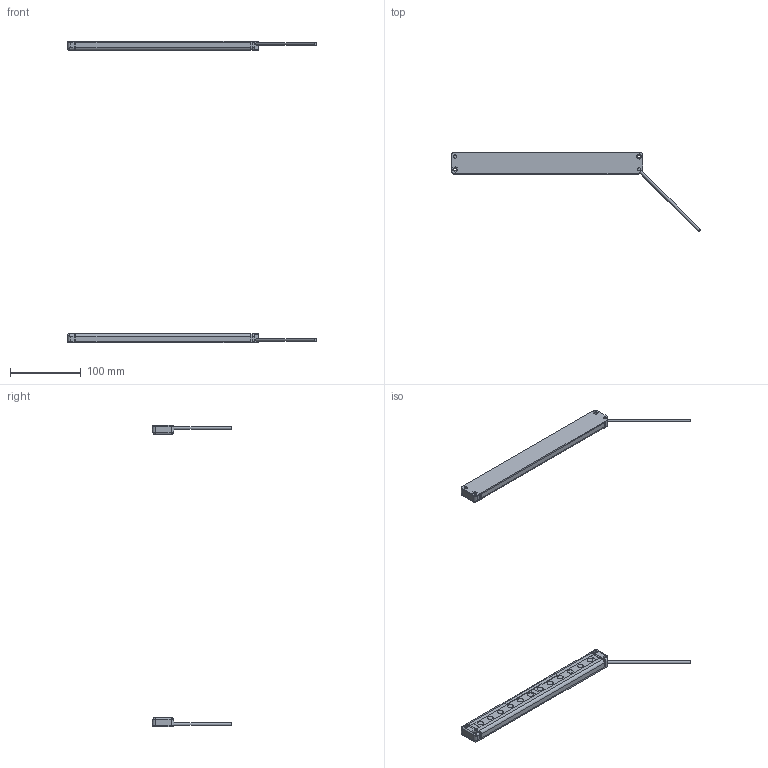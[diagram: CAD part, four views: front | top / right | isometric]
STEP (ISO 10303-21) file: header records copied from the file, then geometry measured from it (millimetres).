
FILE_DESCRIPTION(/* description */ (''),/* implementation_level */ '2;1');
FILE_NAME(/* name */ 'F:\HUAYIFENG\02)HUAYIFENG_3D_MODE\HUAYIFENG_3D_MODE_\X2\51495E554F20611F5668\X0\\HAL1220\HAL1220_3D\HAL1220_3D.stp',/* time_stamp */ '2019-07-03T10:24:50+08:00',/* author */ ('fengjiarun'),/* organization */ (''),/* preprocessor_version */ 'ST-DEVELOPER v16.5',/* originating_system */ 'Autodesk Inventor 2017',/* authorisation */ '');
FILE_SCHEMA (('AUTOMOTIVE_DESIGN { 1 0 10303 214 3 1 1 }'));
Length unit declared in the file: millimetre
Products named in the file (1): 零件74
Bounding box: 351.39 x 111.89 x 426 mm (x, y, z)
Volume: 202737 mm3; surface area: 55814.2 mm2
Topology: 2 solids, 8 shells, 362 faces, 870 edges, 550 vertices
Faces by surface type: plane 254, cylinder 98, bspline 10
Full cylindrical faces by diameter (mm): 4 x2, 4.5 x16, 8 x24
Entity records: 10588 total; most frequent: CARTESIAN_POINT 1945, DIRECTION 1706, ORIENTED_EDGE 1600, EDGE_CURVE 800, LINE 600, VECTOR 600, AXIS2_PLACEMENT_3D 553, VERTEX_POINT 528
